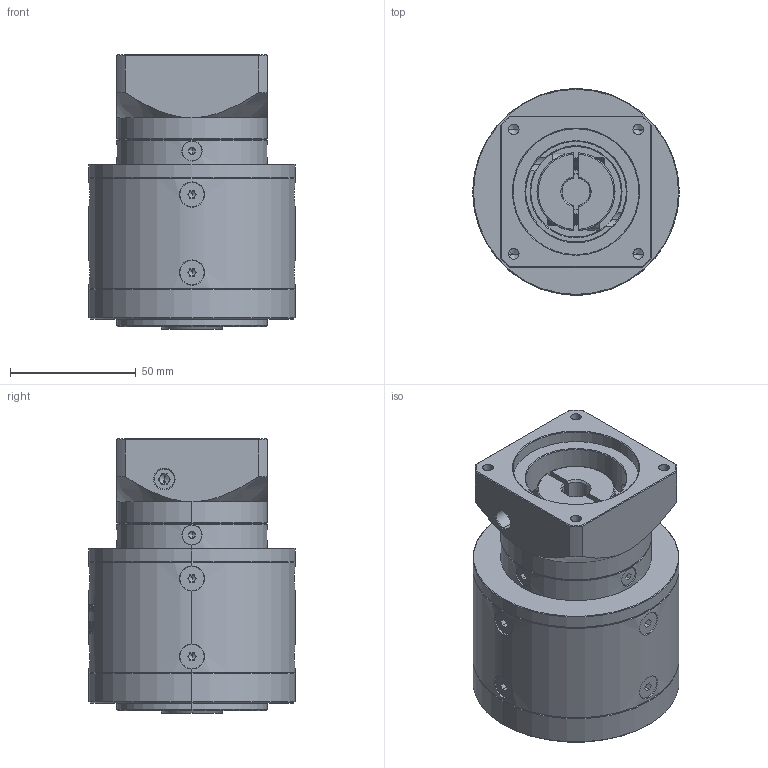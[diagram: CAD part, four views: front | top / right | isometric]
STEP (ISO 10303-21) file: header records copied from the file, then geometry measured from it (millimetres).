
FILE_DESCRIPTION (( 'STEP AP214' ), '1' );
FILE_NAME ('ZE80-K15-L2-11-50-70-M5.step', '2022-05-08T06:06:12', ( '' ), ( 'Microsoft' ), 'SwSTEP 2.0', 'SolidWorks 2016', '' );
FILE_SCHEMA (( 'AUTOMOTIVE_DESIGN' ));
Length unit declared in the file: millimetre
Products named in the file (1): ZE80-K15-L2-11-50-70-M5
Bounding box: 82 x 82 x 109 mm (x, y, z)
Volume: 426361.3 mm3; surface area: 62600.2 mm2
Topology: 18 solids, 18 shells, 1937 faces, 5068 edges, 3221 vertices
Faces by surface type: plane 928, cylinder 370, bspline 318, cone 307, torus 14
Entity records: 100592 total; most frequent: CARTESIAN_POINT 34875, ORIENTED_EDGE 10048, DIRECTION 8062, EDGE_CURVE 5024, VERTEX_POINT 3221, LINE 2766, VECTOR 2766, AXIS2_PLACEMENT_3D 2648
